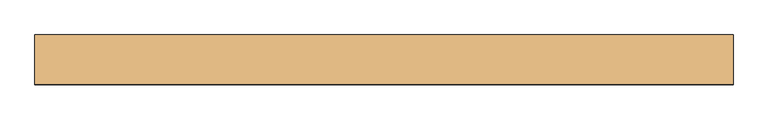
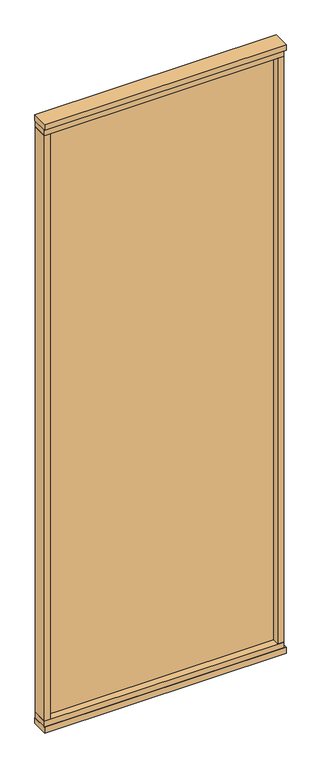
"""IFC4 building model written with IfcOpenShell, lengths in millimetres: door geometry, Mobiliário_Mobiliário de Escritório_Painel de Vidro Simples - AUT E AUL (Complementar)_Marelli : AUT - Temperado."""

from ifc_helpers import new_model, si_unit, frame, origin, origin_with_axes, place, context, project, spatial, polyline, outline, extrude, source, transform, mapped, element, save


def door_9a48b80c(model_context):
    return source(origin(), model_context, "Body", "SweptSolid", [
        extrude(outline(polyline([(600.0, 42.5), (600.0, -42.5), (-600.0, -42.5), (-600.0, 42.5), (600.0, 42.5)])), origin_with_axes(), (0.0, 0.0, 1.0), 30.0),
        extrude(outline(polyline([(590.0, 39.5), (590.0, -39.5), (-600.0, -39.5), (-600.0, 39.5), (590.0, 39.5)])), frame((0.0, 0.0, 30.0), z_axis=(0.0, 0.0, 1.0), x_axis=(1.0, 0.0, 0.0)), (0.0, 0.0, 1.0), 30.0),
        extrude(outline(polyline([(600.0, 42.5), (600.0, -42.5), (-600.0, -42.5), (-600.0, 42.5), (600.0, 42.5)])), frame((0.0, 0.0, 3170.0), z_axis=(0.0, 0.0, 1.0), x_axis=(1.0, 0.0, 0.0)), (0.0, 0.0, 1.0), 30.0),
        extrude(outline(polyline([(590.0, 39.5), (590.0, -39.5), (-600.0, -39.5), (-600.0, 39.5), (590.0, 39.5)])), frame((0.0, 0.0, 3140.0), z_axis=(0.0, 0.0, 1.0), x_axis=(1.0, 0.0, 0.0)), (0.0, 0.0, 1.0), 30.0),
        extrude(outline(polyline([(600.0, -21.5), (590.0, -21.5), (590.0, 21.5), (600.0, 21.5), (600.0, -21.5)])), frame((0.0, 0.0, 30.0), z_axis=(0.0, 0.0, 1.0), x_axis=(1.0, 0.0, 0.0)), (0.0, 0.0, 1.0), 3140.0),
        extrude(outline(polyline([(560.0, 39.5), (590.0, 39.5), (590.0, -39.5), (560.0, -39.5), (560.0, 39.5)])), frame((0.0, 0.0, 60.0), z_axis=(0.0, 0.0, 1.0), x_axis=(1.0, 0.0, 0.0)), (0.0, 0.0, 1.0), 3080.0),
        extrude(outline(polyline([(-570.0, 39.5), (-570.0, -39.5), (-600.0, -39.5), (-600.0, 39.5), (-570.0, 39.5)])), frame((0.0, 0.0, 60.0), z_axis=(0.0, 0.0, 1.0), x_axis=(1.0, 0.0, 0.0)), (0.0, 0.0, 1.0), 3080.0),
        extrude(outline(polyline([(560.0, 3.0), (560.0, -3.0), (-570.0, -3.0), (-570.0, 3.0), (560.0, 3.0)])), frame((0.0, 0.0, 60.0), z_axis=(0.0, 0.0, 1.0), x_axis=(1.0, 0.0, 0.0)), (0.0, 0.0, 1.0), 3080.0),
    ])


if __name__ == "__main__":
    model = new_model("IFC4")
    model_context = context("Model", 3, world=origin())
    ifc_project = project(units=[si_unit("LENGTHUNIT", "METRE", prefix="MILLI")], contexts=[model_context])
    site = spatial("IfcSite", under=ifc_project)
    building = spatial("IfcBuilding", under=site)
    placement = place(None, origin())
    door_shape = door_9a48b80c(model_context)
    element("IfcDoor", 1, ObjectType="Mobiliário_Mobiliário de Escritório_Painel de Vidro Simples - AUT E AUL (Complementar)_Marelli : AUT - Temperado", at=placement, inside=building, context=model_context, shape_type="MappedRepresentation", body=[
        mapped(door_shape, transform((0.0, 0.0, 0.0), x_axis=(1.0, 0.0, 0.0), y_axis=(0.0, 1.0, 0.0), z_axis=(0.0, 0.0, 1.0))),
    ])
    save(model, "model.ifc")
